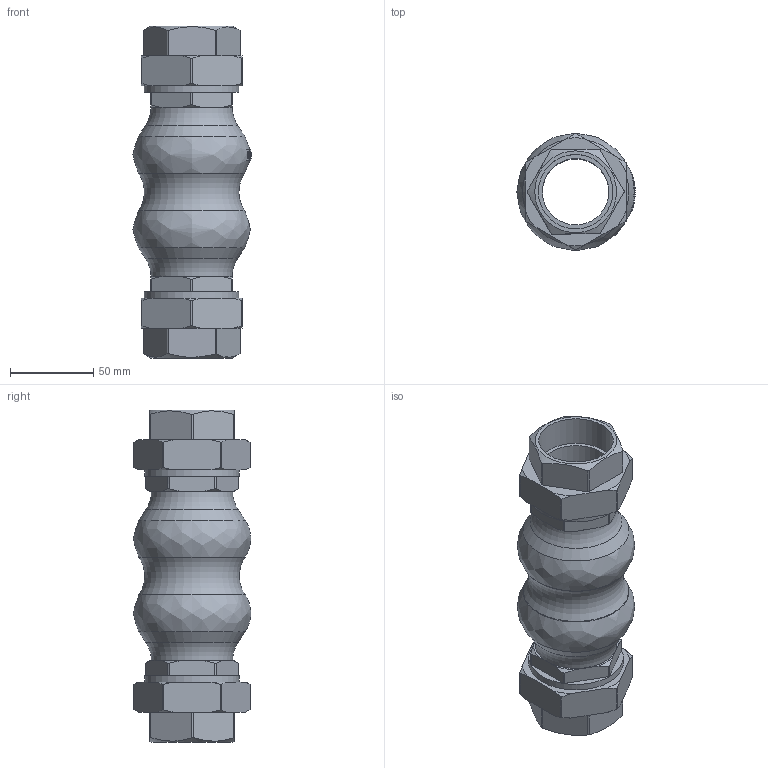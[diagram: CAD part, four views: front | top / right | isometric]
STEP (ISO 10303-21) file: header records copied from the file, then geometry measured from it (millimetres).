
FILE_DESCRIPTION(('STEP AP214'), '1');
FILE_NAME('CR-E17-T Êîìïåíñàòîð ðåçèíîâûé DN.ru Äó40 Ðó10-16', '2026-02-18T05:05:04', ('DN.RU'), (''), 'C3D Converter', 'C3D Toolkit', '');
FILE_SCHEMA(('AUTOMOTIVE_DESIGN { 1 0 10303 214 3 1 1}'));
Length unit declared in the file: millimetre
Products named in the file (1): CR-E17-T
Bounding box: 71.22 x 70.76 x 200 mm (x, y, z)
Volume: 298507.9 mm3; surface area: 71387.4 mm2
Topology: 1 solids, 1 shells, 203 faces, 552 edges, 368 vertices
Faces by surface type: plane 85, cone 42, cylinder 41, bspline 32, torus 3
Full cylindrical faces by diameter (mm): 40 x1, 44.845 x2, 56.845 x2
Entity records: 16971 total; most frequent: CARTESIAN_POINT 10665, ORIENTED_EDGE 1072, DIRECTION 716, EDGE_CURVE 536, VERTEX_POINT 368, AXIS2_PLACEMENT_3D 262, B_SPLINE_CURVE_WITH_KNOTS 254, EDGE_LOOP 238
